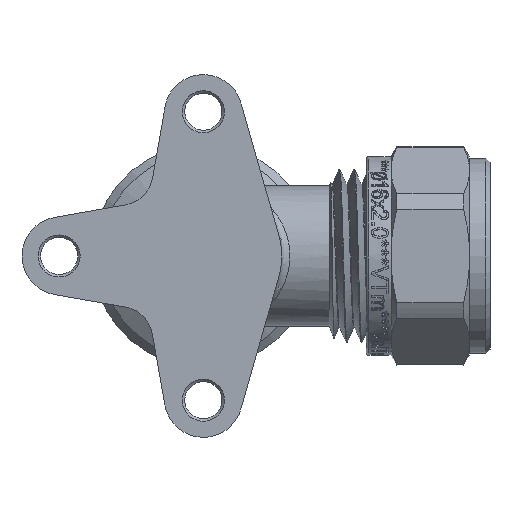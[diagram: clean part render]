
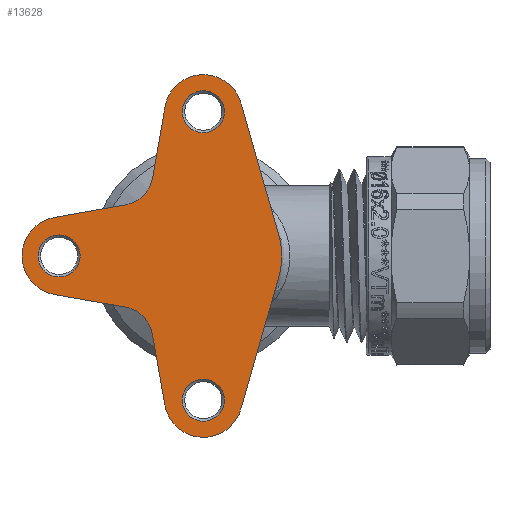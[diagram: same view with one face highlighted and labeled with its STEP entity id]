
A CAD part, front view. The second image highlights one B-rep face of the part: STEP entity #13628.
In plain terms, the highlighted planar face has unit normal (0, -1, 0).
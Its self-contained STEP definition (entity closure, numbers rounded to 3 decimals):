
#1307=FACE_BOUND('',#2443,.T.);
#1308=FACE_BOUND('',#2444,.T.);
#1309=FACE_BOUND('',#2445,.T.);
#1378=PLANE('',#14454);
#1660=FACE_OUTER_BOUND('',#2442,.T.);
#2442=EDGE_LOOP('',(#9368,#9369,#9370,#9371,#9372,#9373,#9374,#9375,#9376,
#9377,#9378,#9379,#9380));
#2443=EDGE_LOOP('',(#9381));
#2444=EDGE_LOOP('',(#9382));
#2445=EDGE_LOOP('',(#9383));
#3298=LINE('',#18997,#4295);
#3299=LINE('',#19001,#4296);
#3300=LINE('',#19005,#4297);
#3301=LINE('',#19009,#4298);
#3302=LINE('',#19013,#4299);
#3303=LINE('',#19016,#4300);
#4295=VECTOR('',#15330,10.);
#4296=VECTOR('',#15333,10.);
#4297=VECTOR('',#15336,10.);
#4298=VECTOR('',#15339,10.);
#4299=VECTOR('',#15342,10.);
#4300=VECTOR('',#15345,10.);
#5281=CIRCLE('',#14453,2.55);
#5282=CIRCLE('',#14455,9.5);
#5283=CIRCLE('',#14456,9.5);
#5284=CIRCLE('',#14457,4.75);
#5285=CIRCLE('',#14458,4.);
#5286=CIRCLE('',#14459,4.75);
#5287=CIRCLE('',#14460,4.);
#5288=CIRCLE('',#14461,4.75);
#5289=CIRCLE('',#14462,2.55);
#5290=CIRCLE('',#14463,2.55);
#5699=VERTEX_POINT('',#18987);
#5700=VERTEX_POINT('',#18991);
#5701=VERTEX_POINT('',#18992);
#5702=VERTEX_POINT('',#18994);
#5703=VERTEX_POINT('',#18996);
#5704=VERTEX_POINT('',#18998);
#5705=VERTEX_POINT('',#19000);
#5706=VERTEX_POINT('',#19002);
#5707=VERTEX_POINT('',#19004);
#5708=VERTEX_POINT('',#19006);
#5709=VERTEX_POINT('',#19008);
#5710=VERTEX_POINT('',#19010);
#5711=VERTEX_POINT('',#19012);
#5712=VERTEX_POINT('',#19014);
#5713=VERTEX_POINT('',#19017);
#5714=VERTEX_POINT('',#19019);
#7171=EDGE_CURVE('',#5699,#5699,#5281,.T.);
#7173=EDGE_CURVE('',#5700,#5701,#5282,.T.);
#7174=EDGE_CURVE('',#5701,#5702,#5283,.T.);
#7175=EDGE_CURVE('',#5702,#5703,#3298,.T.);
#7176=EDGE_CURVE('',#5703,#5704,#5284,.T.);
#7177=EDGE_CURVE('',#5704,#5705,#3299,.T.);
#7178=EDGE_CURVE('',#5705,#5706,#5285,.T.);
#7179=EDGE_CURVE('',#5706,#5707,#3300,.T.);
#7180=EDGE_CURVE('',#5707,#5708,#5286,.T.);
#7181=EDGE_CURVE('',#5708,#5709,#3301,.T.);
#7182=EDGE_CURVE('',#5709,#5710,#5287,.T.);
#7183=EDGE_CURVE('',#5710,#5711,#3302,.T.);
#7184=EDGE_CURVE('',#5711,#5712,#5288,.T.);
#7185=EDGE_CURVE('',#5712,#5700,#3303,.T.);
#7186=EDGE_CURVE('',#5713,#5713,#5289,.T.);
#7187=EDGE_CURVE('',#5714,#5714,#5290,.T.);
#9368=ORIENTED_EDGE('',*,*,#7173,.T.);
#9369=ORIENTED_EDGE('',*,*,#7174,.T.);
#9370=ORIENTED_EDGE('',*,*,#7175,.T.);
#9371=ORIENTED_EDGE('',*,*,#7176,.T.);
#9372=ORIENTED_EDGE('',*,*,#7177,.T.);
#9373=ORIENTED_EDGE('',*,*,#7178,.T.);
#9374=ORIENTED_EDGE('',*,*,#7179,.T.);
#9375=ORIENTED_EDGE('',*,*,#7180,.T.);
#9376=ORIENTED_EDGE('',*,*,#7181,.T.);
#9377=ORIENTED_EDGE('',*,*,#7182,.T.);
#9378=ORIENTED_EDGE('',*,*,#7183,.T.);
#9379=ORIENTED_EDGE('',*,*,#7184,.T.);
#9380=ORIENTED_EDGE('',*,*,#7185,.T.);
#9381=ORIENTED_EDGE('',*,*,#7186,.F.);
#9382=ORIENTED_EDGE('',*,*,#7187,.F.);
#9383=ORIENTED_EDGE('',*,*,#7171,.F.);
#13628=ADVANCED_FACE('',(#1660,#1307,#1308,#1309),#1378,.T.);
#14453=AXIS2_PLACEMENT_3D('',#18988,#15321,#15322);
#14454=AXIS2_PLACEMENT_3D('',#18990,#15324,#15325);
#14455=AXIS2_PLACEMENT_3D('',#18993,#15326,#15327);
#14456=AXIS2_PLACEMENT_3D('',#18995,#15328,#15329);
#14457=AXIS2_PLACEMENT_3D('',#18999,#15331,#15332);
#14458=AXIS2_PLACEMENT_3D('',#19003,#15334,#15335);
#14459=AXIS2_PLACEMENT_3D('',#19007,#15337,#15338);
#14460=AXIS2_PLACEMENT_3D('',#19011,#15340,#15341);
#14461=AXIS2_PLACEMENT_3D('',#19015,#15343,#15344);
#14462=AXIS2_PLACEMENT_3D('',#19018,#15346,#15347);
#14463=AXIS2_PLACEMENT_3D('',#19020,#15348,#15349);
#15321=DIRECTION('center_axis',(0.,-1.,0.));
#15322=DIRECTION('ref_axis',(-1.,0.,0.));
#15324=DIRECTION('center_axis',(0.,-1.,0.));
#15325=DIRECTION('ref_axis',(0.,0.,-1.));
#15326=DIRECTION('center_axis',(0.,-1.,0.));
#15327=DIRECTION('ref_axis',(1.,0.,0.));
#15328=DIRECTION('center_axis',(0.,-1.,0.));
#15329=DIRECTION('ref_axis',(1.,0.,0.));
#15330=DIRECTION('',(-0.275,0.,0.961));
#15331=DIRECTION('center_axis',(0.,-1.,0.));
#15332=DIRECTION('ref_axis',(0.961,0.,0.275));
#15333=DIRECTION('',(-0.173,0.,-0.985));
#15334=DIRECTION('center_axis',(0.,1.,0.));
#15335=DIRECTION('ref_axis',(-0.173,0.,0.985));
#15336=DIRECTION('',(-0.985,0.,-0.173));
#15337=DIRECTION('center_axis',(0.,-1.,0.));
#15338=DIRECTION('ref_axis',(-0.173,0.,0.985));
#15339=DIRECTION('',(0.985,0.,-0.173));
#15340=DIRECTION('center_axis',(0.,1.,0.));
#15341=DIRECTION('ref_axis',(-0.985,0.,-0.173));
#15342=DIRECTION('',(0.173,0.,-0.985));
#15343=DIRECTION('center_axis',(0.,-1.,0.));
#15344=DIRECTION('ref_axis',(-0.985,0.,-0.173));
#15345=DIRECTION('',(0.275,0.,0.961));
#15346=DIRECTION('center_axis',(0.,-1.,0.));
#15347=DIRECTION('ref_axis',(-1.,0.,0.));
#15348=DIRECTION('center_axis',(0.,-1.,0.));
#15349=DIRECTION('ref_axis',(-1.,0.,0.));
#18987=CARTESIAN_POINT('',(2.55,-14.,-17.5));
#18988=CARTESIAN_POINT('Origin',(0.,-14.,-17.5));
#18990=CARTESIAN_POINT('Origin',(0.,-14.,0.));
#18991=CARTESIAN_POINT('',(9.133,-14.,-2.616));
#18992=CARTESIAN_POINT('',(9.5,-14.,0.));
#18993=CARTESIAN_POINT('Origin',(0.,-14.,0.));
#18994=CARTESIAN_POINT('',(9.133,-14.,2.616));
#18995=CARTESIAN_POINT('Origin',(0.,-14.,0.));
#18996=CARTESIAN_POINT('',(4.566,-14.,18.558));
#18997=CARTESIAN_POINT('',(9.133,-14.,2.616));
#18998=CARTESIAN_POINT('',(-4.738,-14.,17.585));
#18999=CARTESIAN_POINT('Origin',(0.,-14.,17.25));
#19000=CARTESIAN_POINT('',(-6.171,-14.,9.448));
#19001=CARTESIAN_POINT('',(-4.652,-14.,18.075));
#19002=CARTESIAN_POINT('',(-9.417,-14.,6.202));
#19003=CARTESIAN_POINT('Origin',(-10.11,-14.,10.141));
#19004=CARTESIAN_POINT('',(-18.073,-14.,4.678));
#19005=CARTESIAN_POINT('',(-9.417,-14.,6.202));
#19006=CARTESIAN_POINT('',(-18.073,-14.,-4.678));
#19007=CARTESIAN_POINT('Origin',(-17.25,-14.,0.));
#19008=CARTESIAN_POINT('',(-9.443,-14.,-6.197));
#19009=CARTESIAN_POINT('',(-18.073,-14.,-4.678));
#19010=CARTESIAN_POINT('',(-6.197,-14.,-9.443));
#19011=CARTESIAN_POINT('Origin',(-10.137,-14.,-10.137));
#19012=CARTESIAN_POINT('',(-4.678,-14.,-18.073));
#19013=CARTESIAN_POINT('',(-6.197,-14.,-9.443));
#19014=CARTESIAN_POINT('',(4.566,-14.,-18.558));
#19015=CARTESIAN_POINT('Origin',(0.,-14.,-17.25));
#19016=CARTESIAN_POINT('',(4.566,-14.,-18.558));
#19017=CARTESIAN_POINT('',(2.55,-14.,17.5));
#19018=CARTESIAN_POINT('Origin',(0.,-14.,17.5));
#19019=CARTESIAN_POINT('',(-14.95,-14.,0.));
#19020=CARTESIAN_POINT('Origin',(-17.5,-14.,0.));
